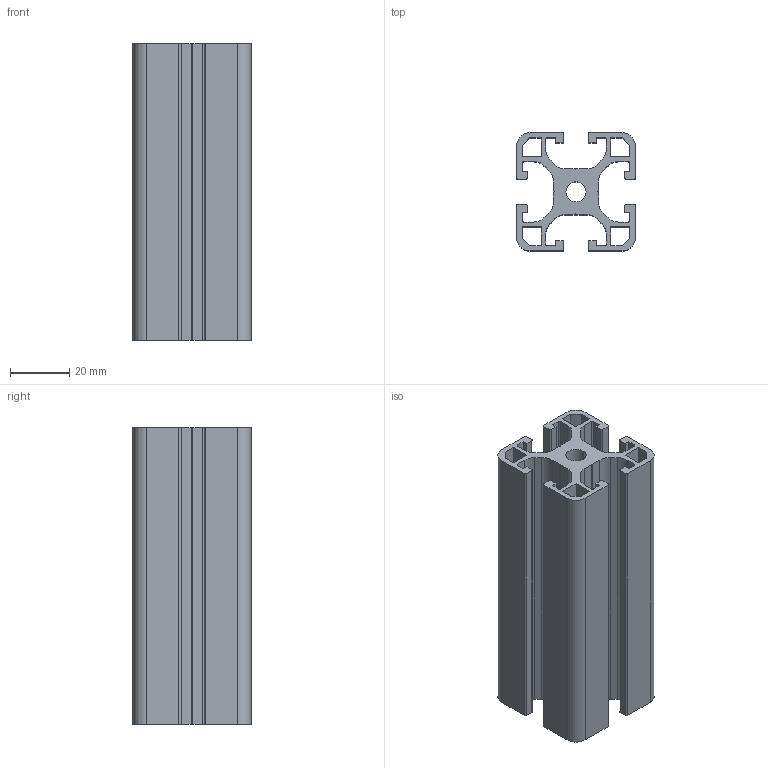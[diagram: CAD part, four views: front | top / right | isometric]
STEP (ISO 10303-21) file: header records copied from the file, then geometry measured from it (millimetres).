
FILE_DESCRIPTION (( 'STEP AP203' ), '1' );
FILE_NAME ('LIMA-P84040-SL.STEP', '2018-03-15T12:36:11', ( '' ), ( '' ), 'SwSTEP 2.0', 'SolidWorks 2013', '' );
FILE_SCHEMA (( 'CONFIG_CONTROL_DESIGN' ));
Length unit declared in the file: millimetre
Products named in the file (1): LIMA-P84040-SL
Bounding box: 40 x 40 x 100 mm (x, y, z)
Volume: 60250.8 mm3; surface area: 47686.2 mm2
Topology: 1 solids, 1 shells, 140 faces, 414 edges, 276 vertices
Faces by surface type: plane 94, cylinder 46
Entity records: 4767 total; most frequent: CARTESIAN_POINT 831, ORIENTED_EDGE 828, DIRECTION 788, EDGE_CURVE 414, VECTOR 322, LINE 322, VERTEX_POINT 276, AXIS2_PLACEMENT_3D 233
